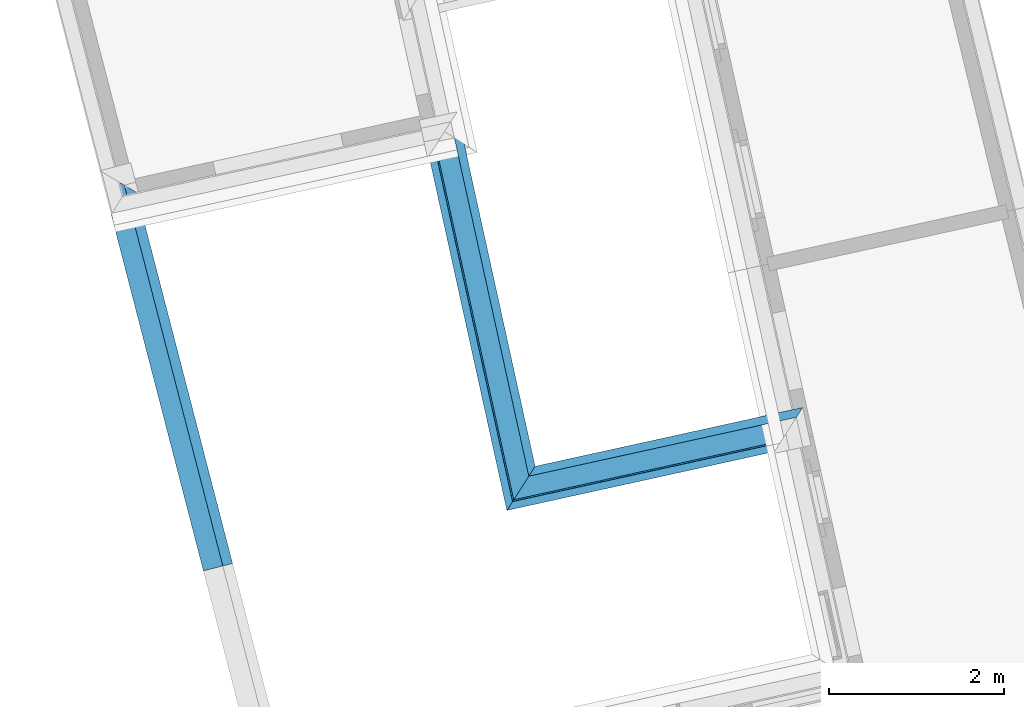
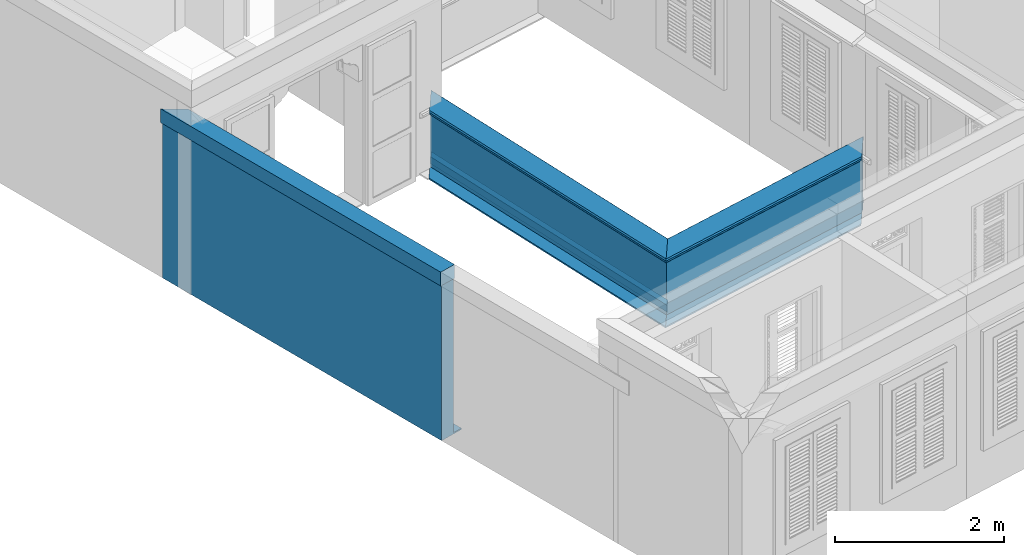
# One storey, part 5 of 17: 8 walls.
"""IFC4 building model written with IfcOpenShell, lengths in metres."""

from ifc_helpers import new_model, si_unit, frame, origin_with_axes, place, context, subcontext, project, spatial, polyline, outline, extrude, clip, halfspace, material_profile, profile_set, profile_usage, type_object, element, save


model = new_model("IFC4")

# Units and contexts
model_context = context("Model", 3, world=origin_with_axes())
body_context = subcontext(model_context, "Body", "Model", "MODEL_VIEW")
ifc_project = project(units=[si_unit("PLANEANGLEUNIT", "RADIAN"), si_unit("MASSUNIT", "GRAM", prefix="KILO"), si_unit("FORCEUNIT", "NEWTON", prefix="KILO"), si_unit("LENGTHUNIT", "METRE"), si_unit("AREAUNIT", "SQUARE_METRE"), si_unit("VOLUMEUNIT", "CUBIC_METRE")], contexts=[model_context, model_context])

# Site, building, storey
site_placement = place(None, origin_with_axes())
site = spatial("IfcSite", under=ifc_project, at=site_placement, Name="Site plot-2", CompositionType="ELEMENT")
building_placement = place(None, origin_with_axes())
building = spatial("IfcBuilding", under=site, at=building_placement, Name="Building plot-2", CompositionType="ELEMENT")
storey_placement = place(None, frame((0.0, 0.0, 2.85), z_axis=(0.0, 0.0, 1.0), x_axis=(1.0, 0.0, 0.0)))
storey = spatial("IfcBuildingStorey", under=building, at=storey_placement, Name="plot-2 1", CompositionType="ELEMENT", Elevation=2.85)

# Walls
ifc_material_profile_1 = material_profile(None, outline(polyline([(0.25, 0.0), (0.25, 2.245), (0.05, 2.245), (0.05, 0.02), (-0.08, 0.02), (-0.08, 0.0), (0.25, 0.0)])))
ifc_profile_set_1 = profile_set([ifc_material_profile_1])
ifc_profile_usage_1 = profile_usage(ifc_profile_set_1)
wall_type_1 = type_object("IfcWallType", Name="parapet party_0", PredefinedType="PARAPET", material=ifc_profile_set_1)
wall_1_placement = place(storey_placement, frame((10.3751976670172, 5.02669538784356, 0.0), z_axis=(-0.250522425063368, 0.968110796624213, 0.0), x_axis=(-0.968110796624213, -0.250522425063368, 0.0)))
element("IfcWall", 1, at=wall_1_placement, inside=storey, type_object=wall_type_1, material=ifc_profile_usage_1, Name="parapet party_0", context=body_context, shape_type="Clipping", body=[
    clip(clip(extrude(outline(polyline([(0.25, 0.0), (0.25, 2.245), (0.05, 2.245), (0.05, 0.02), (-0.08, 0.02), (-0.08, 0.0), (0.25, 0.0)])), origin_with_axes(), (0.0, 0.0, 1.0), 6.4712838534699), halfspace(frame((0.0, 0.0, 5.4712838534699), z_axis=(0.707106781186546, 0.0, -0.707106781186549), x_axis=(0.0, 1.0, 0.0)), True)), halfspace(frame((0.0, 0.0, 1.0), z_axis=(3.82856869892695e-16, 0.0, -1.0), x_axis=(0.0, 1.0, 0.0)), False)),
])
ifc_material_profile_2 = material_profile(None, outline(polyline([(0.265, 2.245), (0.265, 2.445), (0.035, 2.445), (0.035, 2.245), (0.265, 2.245)])))
ifc_profile_set_2 = profile_set([ifc_material_profile_2])
ifc_profile_usage_2 = profile_usage(ifc_profile_set_2)
wall_type_2 = type_object("IfcWallType", Name="parapet party_1", PredefinedType="PARAPET", material=ifc_profile_set_2)
wall_2_placement = place(storey_placement, frame((10.3751976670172, 5.02669538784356, 0.0), z_axis=(-0.250522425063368, 0.968110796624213, 0.0), x_axis=(-0.968110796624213, -0.250522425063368, 0.0)))
element("IfcWall", 2, at=wall_2_placement, inside=storey, type_object=wall_type_2, material=ifc_profile_usage_2, Name="parapet party_1", context=body_context, shape_type="Clipping", body=[
    clip(clip(extrude(outline(polyline([(0.265, 2.245), (0.265, 2.445), (0.035, 2.445), (0.035, 2.245), (0.265, 2.245)])), origin_with_axes(), (0.0, 0.0, 1.0), 6.4712838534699), halfspace(frame((0.0, 0.0, 5.4712838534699), z_axis=(0.707106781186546, 0.0, -0.707106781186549), x_axis=(0.0, 1.0, 0.0)), True)), halfspace(frame((0.0, 0.0, 1.0), z_axis=(3.82856869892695e-16, 0.0, -1.0), x_axis=(0.0, 1.0, 0.0)), False)),
])
ifc_material_profile_3 = material_profile(None, outline(polyline([(0.25, 0.0), (0.25, 0.795), (0.09, 0.795), (0.09, 0.02), (-0.08, 0.02), (-0.08, 0.0), (0.25, 0.0)])))
ifc_profile_set_3 = profile_set([ifc_material_profile_3])
ifc_profile_usage_3 = profile_usage(ifc_profile_set_3)
wall_type_3 = type_object("IfcWallType", Name="parapet internal_0", PredefinedType="PARAPET", material=ifc_profile_set_3)
wall_3_placement = place(storey_placement, frame((12.4290466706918, 6.50163700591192, 0.0), z_axis=(0.976656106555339, 0.214808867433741, 0.0), x_axis=(-0.214808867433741, 0.976656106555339, 0.0)))
element("IfcWall", 3, at=wall_3_placement, inside=storey, type_object=wall_type_3, material=ifc_profile_usage_3, Name="parapet internal_0", context=body_context, shape_type="Clipping", body=[
    clip(clip(extrude(outline(polyline([(0.25, 0.0), (0.25, 0.795), (0.09, 0.795), (0.09, 0.02), (-0.08, 0.02), (-0.08, 0.0), (0.25, 0.0)])), origin_with_axes(), (0.0, 0.0, 1.0), 5.13892127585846), halfspace(frame((0.0, 0.0, 4.13892127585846), z_axis=(0.70710678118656, 0.0, -0.707106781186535), x_axis=(0.0, 1.0, 0.0)), True)), halfspace(frame((0.0, 0.0, 1.0), z_axis=(0.707106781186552, 0.0, -0.707106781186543), x_axis=(0.0, 1.0, 0.0)), False)),
])
ifc_profile_usage_4 = profile_usage(ifc_profile_set_3)
wall_4_placement = place(storey_placement, frame((12.2976608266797, 11.7543009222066, 0.0), z_axis=(0.214808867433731, -0.976656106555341, 0.0), x_axis=(0.976656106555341, 0.214808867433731, 0.0)))
element("IfcWall", 4, at=wall_4_placement, inside=storey, type_object=wall_type_3, material=ifc_profile_usage_4, Name="parapet internal_0", context=body_context, shape_type="Clipping", body=[
    clip(clip(extrude(outline(polyline([(0.25, 0.0), (0.25, 0.795), (0.09, 0.795), (0.09, 0.02), (-0.08, 0.02), (-0.08, 0.0), (0.25, 0.0)])), origin_with_axes(), (0.0, 0.0, 1.0), 6.15826913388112), halfspace(frame((0.0, 0.0, 5.15826913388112), z_axis=(-0.70710678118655, 0.0, -0.707106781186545), x_axis=(0.0, 1.0, 0.0)), True)), halfspace(frame((0.0, 0.0, 1.0), z_axis=(-0.707106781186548, 0.0, -0.707106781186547), x_axis=(0.0, 1.0, 0.0)), False)),
])
ifc_material_profile_4 = material_profile(None, outline(polyline([(0.265, 0.795), (0.268, 0.807), (0.274, 0.816), (0.283, 0.822), (0.295, 0.825), (0.295, 0.84), (0.305, 0.84), (0.317, 0.842), (0.326, 0.849), (0.333, 0.858), (0.335, 0.87), (0.333, 0.882), (0.326, 0.891), (0.317, 0.898), (0.305, 0.9), (0.035, 0.9), (0.023, 0.898), (0.014, 0.891), (0.007, 0.882), (0.005, 0.87), (0.007, 0.858), (0.014, 0.849), (0.023, 0.842), (0.035, 0.84), (0.045, 0.84), (0.045, 0.825), (0.057, 0.822), (0.066, 0.816), (0.072, 0.807), (0.075, 0.795), (0.265, 0.795)])))
ifc_profile_set_4 = profile_set([ifc_material_profile_4])
ifc_profile_usage_5 = profile_usage(ifc_profile_set_4)
wall_type_4 = type_object("IfcWallType", Name="parapet internal_1", PredefinedType="PARAPET", material=ifc_profile_set_4)
wall_5_placement = place(storey_placement, frame((12.4290466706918, 6.50163700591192, 0.0), z_axis=(0.976656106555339, 0.214808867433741, 0.0), x_axis=(-0.214808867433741, 0.976656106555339, 0.0)))
element("IfcWall", 5, at=wall_5_placement, inside=storey, type_object=wall_type_4, material=ifc_profile_usage_5, Name="parapet internal_1", context=body_context, shape_type="Clipping", body=[
    clip(clip(extrude(outline(polyline([(0.265, 0.795), (0.268, 0.807), (0.274, 0.816), (0.283, 0.822), (0.295, 0.825), (0.295, 0.84), (0.305, 0.84), (0.317, 0.842), (0.326, 0.849), (0.333, 0.858), (0.335, 0.87), (0.333, 0.882), (0.326, 0.891), (0.317, 0.898), (0.305, 0.9), (0.035, 0.9), (0.023, 0.898), (0.014, 0.891), (0.007, 0.882), (0.005, 0.87), (0.007, 0.858), (0.014, 0.849), (0.023, 0.842), (0.035, 0.84), (0.045, 0.84), (0.045, 0.825), (0.057, 0.822), (0.066, 0.816), (0.072, 0.807), (0.075, 0.795), (0.265, 0.795)])), origin_with_axes(), (0.0, 0.0, 1.0), 5.13892127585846), halfspace(frame((0.0, 0.0, 4.13892127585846), z_axis=(0.70710678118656, 0.0, -0.707106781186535), x_axis=(0.0, 1.0, 0.0)), True)), halfspace(frame((0.0, 0.0, 1.0), z_axis=(0.707106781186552, 0.0, -0.707106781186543), x_axis=(0.0, 1.0, 0.0)), False)),
])
ifc_profile_usage_6 = profile_usage(ifc_profile_set_4)
wall_6_placement = place(storey_placement, frame((12.2976608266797, 11.7543009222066, 0.0), z_axis=(0.214808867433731, -0.976656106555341, 0.0), x_axis=(0.976656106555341, 0.214808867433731, 0.0)))
element("IfcWall", 6, at=wall_6_placement, inside=storey, type_object=wall_type_4, material=ifc_profile_usage_6, Name="parapet internal_1", context=body_context, shape_type="Clipping", body=[
    clip(clip(extrude(outline(polyline([(0.265, 0.795), (0.268, 0.807), (0.274, 0.816), (0.283, 0.822), (0.295, 0.825), (0.295, 0.84), (0.305, 0.84), (0.317, 0.842), (0.326, 0.849), (0.333, 0.858), (0.335, 0.87), (0.333, 0.882), (0.326, 0.891), (0.317, 0.898), (0.305, 0.9), (0.035, 0.9), (0.023, 0.898), (0.014, 0.891), (0.007, 0.882), (0.005, 0.87), (0.007, 0.858), (0.014, 0.849), (0.023, 0.842), (0.035, 0.84), (0.045, 0.84), (0.045, 0.825), (0.057, 0.822), (0.066, 0.816), (0.072, 0.807), (0.075, 0.795), (0.265, 0.795)])), origin_with_axes(), (0.0, 0.0, 1.0), 6.15826913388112), halfspace(frame((0.0, 0.0, 5.15826913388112), z_axis=(-0.70710678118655, 0.0, -0.707106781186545), x_axis=(0.0, 1.0, 0.0)), True)), halfspace(frame((0.0, 0.0, 1.0), z_axis=(-0.707106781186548, 0.0, -0.707106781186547), x_axis=(0.0, 1.0, 0.0)), False)),
])
ifc_material_profile_5 = material_profile(None, outline(polyline([(0.25, -0.1), (0.265, -0.1), (0.265, -0.085), (0.278, -0.084), (0.289, -0.081), (0.301, -0.074), (0.309, -0.065), (0.315, -0.055), (0.324, -0.044), (0.334, -0.038), (0.345, -0.035), (0.345, -0.015), (0.25, 0.0), (0.25, -0.1)])))
ifc_profile_set_5 = profile_set([ifc_material_profile_5])
ifc_profile_usage_7 = profile_usage(ifc_profile_set_5)
wall_type_5 = type_object("IfcWallType", Name="parapet internal_2", PredefinedType="PARAPET", material=ifc_profile_set_5)
wall_7_placement = place(storey_placement, frame((12.4290466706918, 6.50163700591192, 0.0), z_axis=(0.976656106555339, 0.214808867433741, 0.0), x_axis=(-0.214808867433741, 0.976656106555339, 0.0)))
element("IfcWall", 7, at=wall_7_placement, inside=storey, type_object=wall_type_5, material=ifc_profile_usage_7, Name="parapet internal_2", context=body_context, shape_type="Clipping", body=[
    clip(clip(extrude(outline(polyline([(0.25, -0.1), (0.265, -0.1), (0.265, -0.085), (0.278, -0.084), (0.289, -0.081), (0.301, -0.074), (0.309, -0.065), (0.315, -0.055), (0.324, -0.044), (0.334, -0.038), (0.345, -0.035), (0.345, -0.015), (0.25, 0.0), (0.25, -0.1)])), origin_with_axes(), (0.0, 0.0, 1.0), 5.13892127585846), halfspace(frame((0.0, 0.0, 4.13892127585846), z_axis=(0.70710678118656, 0.0, -0.707106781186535), x_axis=(0.0, 1.0, 0.0)), True)), halfspace(frame((0.0, 0.0, 1.0), z_axis=(0.707106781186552, 0.0, -0.707106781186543), x_axis=(0.0, 1.0, 0.0)), False)),
])
ifc_profile_usage_8 = profile_usage(ifc_profile_set_5)
wall_8_placement = place(storey_placement, frame((12.2976608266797, 11.7543009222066, 0.0), z_axis=(0.214808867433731, -0.976656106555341, 0.0), x_axis=(0.976656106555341, 0.214808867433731, 0.0)))
element("IfcWall", 8, at=wall_8_placement, inside=storey, type_object=wall_type_5, material=ifc_profile_usage_8, Name="parapet internal_2", context=body_context, shape_type="Clipping", body=[
    clip(clip(extrude(outline(polyline([(0.25, -0.1), (0.265, -0.1), (0.265, -0.085), (0.278, -0.084), (0.289, -0.081), (0.301, -0.074), (0.309, -0.065), (0.315, -0.055), (0.324, -0.044), (0.334, -0.038), (0.345, -0.035), (0.345, -0.015), (0.25, 0.0), (0.25, -0.1)])), origin_with_axes(), (0.0, 0.0, 1.0), 6.15826913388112), halfspace(frame((0.0, 0.0, 5.15826913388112), z_axis=(-0.70710678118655, 0.0, -0.707106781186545), x_axis=(0.0, 1.0, 0.0)), True)), halfspace(frame((0.0, 0.0, 1.0), z_axis=(-0.707106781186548, 0.0, -0.707106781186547), x_axis=(0.0, 1.0, 0.0)), False)),
])

save(model, "model.ifc")
